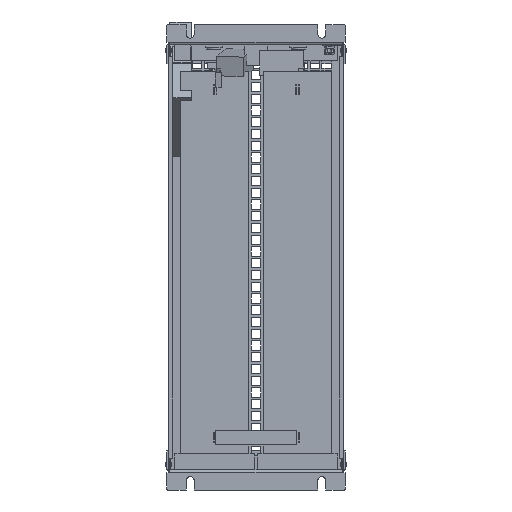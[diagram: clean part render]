
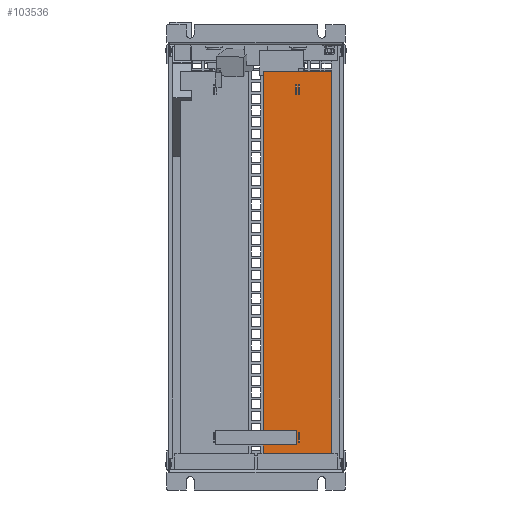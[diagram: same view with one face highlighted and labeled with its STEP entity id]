
A CAD part, front view. The second image highlights one B-rep face of the part: STEP entity #103536.
In plain terms, the highlighted planar face has unit normal (0, -1, 0).
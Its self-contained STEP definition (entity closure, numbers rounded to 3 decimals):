
#1870=FACE_BOUND('',#9170,.T.);
#1871=FACE_BOUND('',#9171,.T.);
#1872=FACE_BOUND('',#9172,.T.);
#3429=FACE_OUTER_BOUND('',#9169,.T.);
#9169=EDGE_LOOP('',(#70597,#70598,#70599,#70600,#70601,#70602,#70603,#70604));
#9170=EDGE_LOOP('',(#70605,#70606,#70607,#70608));
#9171=EDGE_LOOP('',(#70609,#70610,#70611,#70612));
#9172=EDGE_LOOP('',(#70613,#70614,#70615,#70616));
#16848=LINE('',#142048,#30338);
#16857=LINE('',#142067,#30347);
#16858=LINE('',#142069,#30348);
#16859=LINE('',#142071,#30349);
#16860=LINE('',#142072,#30350);
#16865=LINE('',#142085,#30355);
#16866=LINE('',#142087,#30356);
#16867=LINE('',#142089,#30357);
#16868=LINE('',#142090,#30358);
#16869=LINE('',#142094,#30359);
#16870=LINE('',#142096,#30360);
#16871=LINE('',#142098,#30361);
#16872=LINE('',#142099,#30362);
#19010=LINE('',#147100,#32500);
#19019=LINE('',#147117,#32509);
#19022=LINE('',#147122,#32512);
#19023=LINE('',#147125,#32513);
#19024=LINE('',#147127,#32514);
#19025=LINE('',#147128,#32515);
#19026=LINE('',#147129,#32516);
#30338=VECTOR('',#115810,10.);
#30347=VECTOR('',#115821,10.);
#30348=VECTOR('',#115822,10.);
#30349=VECTOR('',#115823,10.);
#30350=VECTOR('',#115824,10.);
#30355=VECTOR('',#115833,10.);
#30356=VECTOR('',#115834,10.);
#30357=VECTOR('',#115835,10.);
#30358=VECTOR('',#115836,10.);
#30359=VECTOR('',#115839,10.);
#30360=VECTOR('',#115840,10.);
#30361=VECTOR('',#115841,10.);
#30362=VECTOR('',#115842,10.);
#32500=VECTOR('',#119008,10.);
#32509=VECTOR('',#119021,10.);
#32512=VECTOR('',#119028,10.);
#32513=VECTOR('',#119031,10.);
#32514=VECTOR('',#119032,10.);
#32515=VECTOR('',#119033,10.);
#32516=VECTOR('',#119034,10.);
#43778=VERTEX_POINT('',#142045);
#43779=VERTEX_POINT('',#142047);
#43787=VERTEX_POINT('',#142065);
#43788=VERTEX_POINT('',#142066);
#43789=VERTEX_POINT('',#142068);
#43790=VERTEX_POINT('',#142070);
#43795=VERTEX_POINT('',#142083);
#43796=VERTEX_POINT('',#142084);
#43797=VERTEX_POINT('',#142086);
#43798=VERTEX_POINT('',#142088);
#43799=VERTEX_POINT('',#142092);
#43800=VERTEX_POINT('',#142093);
#43801=VERTEX_POINT('',#142095);
#43802=VERTEX_POINT('',#142097);
#45970=VERTEX_POINT('',#147097);
#45971=VERTEX_POINT('',#147099);
#45976=VERTEX_POINT('',#147114);
#45977=VERTEX_POINT('',#147116);
#45978=VERTEX_POINT('',#147124);
#45979=VERTEX_POINT('',#147126);
#53196=EDGE_CURVE('',#43778,#43779,#16848,.T.);
#53205=EDGE_CURVE('',#43787,#43788,#16857,.T.);
#53206=EDGE_CURVE('',#43789,#43787,#16858,.T.);
#53207=EDGE_CURVE('',#43790,#43789,#16859,.T.);
#53208=EDGE_CURVE('',#43788,#43790,#16860,.T.);
#53213=EDGE_CURVE('',#43795,#43796,#16865,.T.);
#53214=EDGE_CURVE('',#43797,#43795,#16866,.T.);
#53215=EDGE_CURVE('',#43798,#43797,#16867,.T.);
#53216=EDGE_CURVE('',#43796,#43798,#16868,.T.);
#53217=EDGE_CURVE('',#43799,#43800,#16869,.T.);
#53218=EDGE_CURVE('',#43801,#43799,#16870,.T.);
#53219=EDGE_CURVE('',#43802,#43801,#16871,.T.);
#53220=EDGE_CURVE('',#43800,#43802,#16872,.T.);
#55644=EDGE_CURVE('',#45971,#45970,#19010,.T.);
#55653=EDGE_CURVE('',#45977,#45976,#19019,.T.);
#55656=EDGE_CURVE('',#45976,#45971,#19022,.T.);
#55657=EDGE_CURVE('',#45970,#45978,#19023,.T.);
#55658=EDGE_CURVE('',#45979,#45978,#19024,.T.);
#55659=EDGE_CURVE('',#43779,#45979,#19025,.T.);
#55660=EDGE_CURVE('',#43778,#45977,#19026,.T.);
#70597=ORIENTED_EDGE('',*,*,#55653,.T.);
#70598=ORIENTED_EDGE('',*,*,#55656,.T.);
#70599=ORIENTED_EDGE('',*,*,#55644,.T.);
#70600=ORIENTED_EDGE('',*,*,#55657,.T.);
#70601=ORIENTED_EDGE('',*,*,#55658,.F.);
#70602=ORIENTED_EDGE('',*,*,#55659,.F.);
#70603=ORIENTED_EDGE('',*,*,#53196,.F.);
#70604=ORIENTED_EDGE('',*,*,#55660,.T.);
#70605=ORIENTED_EDGE('',*,*,#53205,.T.);
#70606=ORIENTED_EDGE('',*,*,#53208,.T.);
#70607=ORIENTED_EDGE('',*,*,#53207,.T.);
#70608=ORIENTED_EDGE('',*,*,#53206,.T.);
#70609=ORIENTED_EDGE('',*,*,#53213,.T.);
#70610=ORIENTED_EDGE('',*,*,#53216,.T.);
#70611=ORIENTED_EDGE('',*,*,#53215,.T.);
#70612=ORIENTED_EDGE('',*,*,#53214,.T.);
#70613=ORIENTED_EDGE('',*,*,#53217,.T.);
#70614=ORIENTED_EDGE('',*,*,#53220,.T.);
#70615=ORIENTED_EDGE('',*,*,#53219,.T.);
#70616=ORIENTED_EDGE('',*,*,#53218,.T.);
#93979=PLANE('',#108817);
#103536=ADVANCED_FACE('',(#3429,#1870,#1871,#1872),#93979,.F.);
#108817=AXIS2_PLACEMENT_3D('',#147123,#119029,#119030);
#115810=DIRECTION('',(1.,0.,0.));
#115821=DIRECTION('',(-1.,0.,0.));
#115822=DIRECTION('',(0.,0.,-1.));
#115823=DIRECTION('',(1.,0.,0.));
#115824=DIRECTION('',(0.,0.,1.));
#115833=DIRECTION('',(-1.,0.,0.));
#115834=DIRECTION('',(0.,0.,-1.));
#115835=DIRECTION('',(1.,0.,0.));
#115836=DIRECTION('',(0.,0.,1.));
#115839=DIRECTION('',(-1.,0.,0.));
#115840=DIRECTION('',(0.,0.,-1.));
#115841=DIRECTION('',(1.,0.,0.));
#115842=DIRECTION('',(0.,0.,1.));
#119008=DIRECTION('',(-1.,0.,0.));
#119021=DIRECTION('',(1.,0.,0.));
#119028=DIRECTION('',(0.,0.,-1.));
#119029=DIRECTION('center_axis',(0.,1.,0.));
#119030=DIRECTION('ref_axis',(0.,0.,
-1.));
#119031=DIRECTION('',(0.,0.,-1.));
#119032=DIRECTION('',(-1.,0.,0.));
#119033=DIRECTION('',(0.,0.,-1.));
#119034=DIRECTION('',(0.,0.,-1.));
#142045=CARTESIAN_POINT('',(-17.16,-31.992,203.826));
#142047=CARTESIAN_POINT('',(55.691,-31.992,203.826));
#142048=CARTESIAN_POINT('',(19.265,-31.992,203.826));
#142065=CARTESIAN_POINT('',(21.715,-31.992,-190.674));
#142066=CARTESIAN_POINT('',(20.715,-31.992,-190.674));
#142067=CARTESIAN_POINT('',(20.24,-31.992,-190.674));
#142068=CARTESIAN_POINT('',(21.715,-31.992,-180.674));
#142069=CARTESIAN_POINT('',(21.715,-31.992,-92.674));
#142070=CARTESIAN_POINT('',(20.715,-31.992,-180.674));
#142071=CARTESIAN_POINT('',(20.24,-31.992,-180.674));
#142072=CARTESIAN_POINT('',(20.715,-31.992,-92.674));
#142083=CARTESIAN_POINT('',(21.715,-31.992,179.326));
#142084=CARTESIAN_POINT('',(20.715,-31.992,179.326));
#142085=CARTESIAN_POINT('',(20.24,-31.992,179.326));
#142086=CARTESIAN_POINT('',(21.715,-31.992,189.326));
#142087=CARTESIAN_POINT('',(21.715,-31.992,92.326));
#142088=CARTESIAN_POINT('',(20.715,-31.992,189.326));
#142089=CARTESIAN_POINT('',(20.24,-31.992,189.326));
#142090=CARTESIAN_POINT('',(20.715,-31.992,92.326));
#142092=CARTESIAN_POINT('',(18.715,-31.992,179.326));
#142093=CARTESIAN_POINT('',(17.715,-31.992,179.326));
#142094=CARTESIAN_POINT('',(18.74,-31.992,179.326));
#142095=CARTESIAN_POINT('',(18.715,-31.992,189.326));
#142096=CARTESIAN_POINT('',(18.715,-31.992,92.326));
#142097=CARTESIAN_POINT('',(17.715,-31.992,189.326));
#142098=CARTESIAN_POINT('',(18.74,-31.992,189.326));
#142099=CARTESIAN_POINT('',(17.715,-31.992,92.326));
#147097=CARTESIAN_POINT('',(-17.16,-31.992,-193.674));
#147099=CARTESIAN_POINT('',(18.715,-31.992,-193.674));
#147100=CARTESIAN_POINT('',(-2.76,-31.992,-193.674));
#147114=CARTESIAN_POINT('',(18.715,-31.992,-178.674));
#147116=CARTESIAN_POINT('',(-17.16,-31.992,-178.674));
#147117=CARTESIAN_POINT('',(-2.76,-31.992,-178.674));
#147122=CARTESIAN_POINT('',(18.715,-31.992,-92.924));
#147123=CARTESIAN_POINT('Origin',(19.265,-31.992,0.326));
#147124=CARTESIAN_POINT('',(-17.16,-31.992,-203.174));
#147125=CARTESIAN_POINT('',(-17.16,-31.992,0.326));
#147126=CARTESIAN_POINT('',(55.691,-31.992,-203.174));
#147127=CARTESIAN_POINT('',(19.265,-31.992,-203.174));
#147128=CARTESIAN_POINT('',(55.691,-31.992,0.326));
#147129=CARTESIAN_POINT('',(-17.16,-31.992,0.326));
